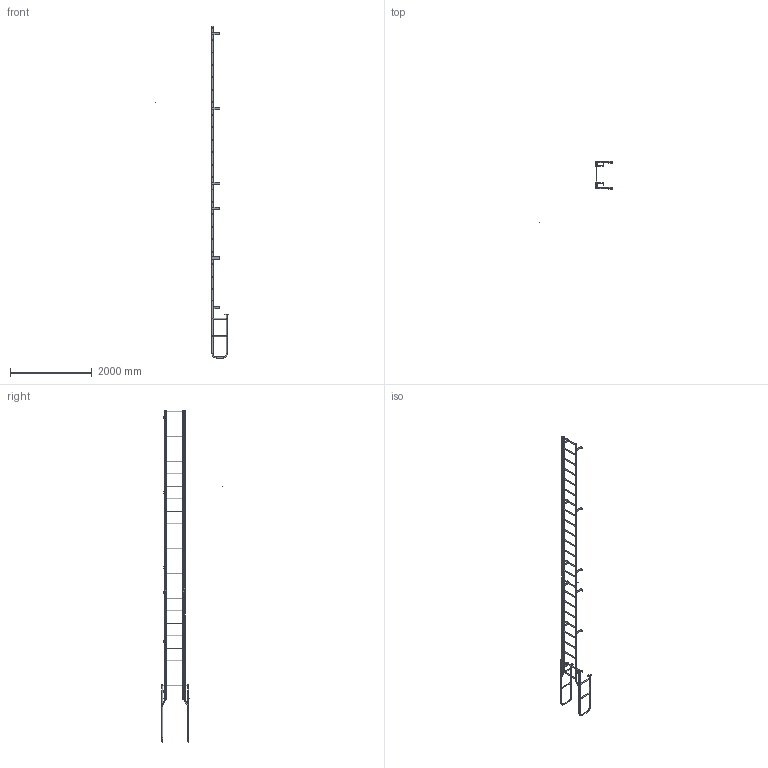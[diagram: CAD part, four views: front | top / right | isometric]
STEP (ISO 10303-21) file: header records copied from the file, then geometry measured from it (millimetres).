
FILE_DESCRIPTION(/* description */ (''),/* implementation_level */ '2;1');
FILE_NAME(/* name */ 'P:\MIKEL & KAREN\D0570352 F24W SIMPLIFIED PART.stp',/* time_stamp */ '2018-07-03T08:36:07-04:00',/* author */ ('stephanie'),/* organization */ (''),/* preprocessor_version */ 'ST-DEVELOPER v16.1',/* originating_system */ 'Autodesk Inventor 2016',/* authorisation */ '');
FILE_SCHEMA (('AUTOMOTIVE_DESIGN { 1 0 10303 214 3 1 1 }'));
Length unit declared in the file: centimetre
Products named in the file (1): D0570352 F24W SIMPLIFIED PART
Bounding box: 1802.79 x 1513.44 x 8124.82 mm (x, y, z)
Volume: 13390837 mm3; surface area: 4789877.7 mm2
Topology: 33 solids, 33 shells, 463 faces, 1207 edges, 798 vertices
Faces by surface type: plane 254, cylinder 201, torus 8
Full cylindrical faces by diameter (mm): 0.254 x1, 10.319 x4, 14.287 x14, 19.05 x24, 22.098 x10, 22.225 x48, 25.4 x10
Entity records: 14230 total; most frequent: CARTESIAN_POINT 2618, DIRECTION 2362, ORIENTED_EDGE 2052, EDGE_CURVE 1022, AXIS2_PLACEMENT_3D 892, VERTEX_POINT 732, EDGE_LOOP 720, LINE 578
